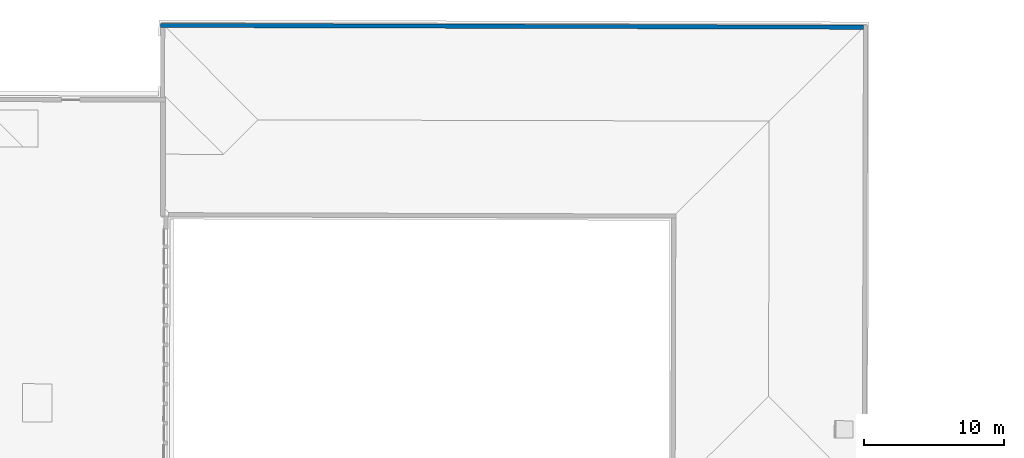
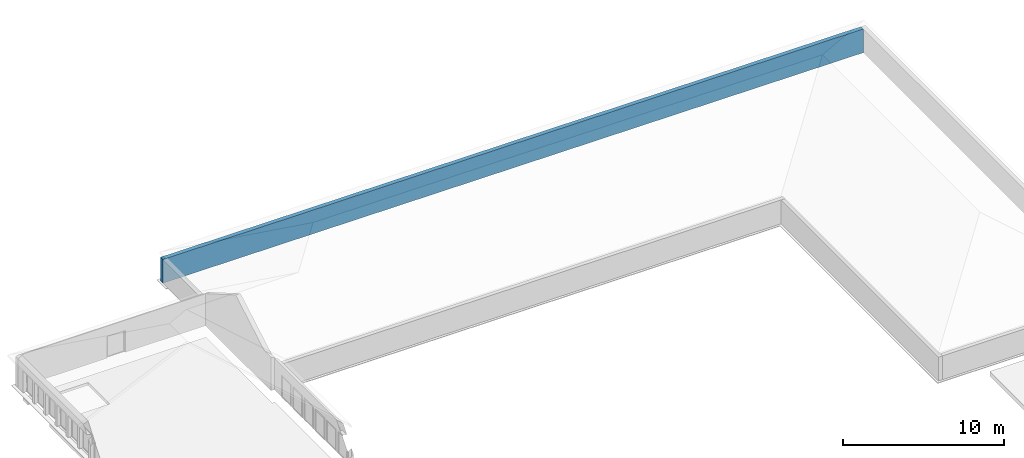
# One storey, part 24 of 26: 1 wall.
"""IFC2X3 building model written with IfcOpenShell, lengths in metres."""

from ifc_helpers import new_model, entity, si_unit, converted_unit, derived_unit, direction, frame, frame_2d, origin, place, context, subcontext, project, spatial, polyline, rectangle, extrude, clip, bounded_halfspace, material, layer, layer_set, layer_usage, type_object, element, save


model = new_model("IFC2X3")

# Units and contexts
model_context = context("Model", 3, precision=1e-05, world=origin(), true_north=direction((6.123233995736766e-17, 1.0)))
body_context = subcontext(model_context, "Body", "Model", "MODEL_VIEW")
ifc_project = project(units=[si_unit("LENGTHUNIT", "METRE"), si_unit("AREAUNIT", "SQUARE_METRE"), converted_unit("PLANEANGLEUNIT", "DEGREE", entity("IfcPlaneAngleMeasure", 0.017453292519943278), si_unit("PLANEANGLEUNIT", "RADIAN"), dimensions=[0, 0, 0, 0, 0, 0, 0]), derived_unit("THERMALTRANSMITTANCEUNIT", [(si_unit("MASSUNIT", "GRAM", prefix="KILO"), 1), (si_unit("THERMODYNAMICTEMPERATUREUNIT", "KELVIN"), -1), (si_unit("TIMEUNIT", "SECOND"), -3)])], contexts=[model_context])

# Site, building, storey
site_placement = place(None, frame((1253.6752467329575, 2072.143113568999, 91.49999999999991), z_axis=(0.0, 0.0, 1.0), x_axis=(0.7237211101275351, 0.6900925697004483, 0.0)))
site = spatial("IfcSite", under=ifc_project, at=site_placement, Name="Surface", CompositionType="ELEMENT")
building_placement = place(site_placement, origin())
building = spatial("IfcBuilding", under=site, at=building_placement, CompositionType="ELEMENT")
storey_placement = place(building_placement, frame((0.0, 0.0, 7.0)))
storey = spatial("IfcBuildingStorey", under=building, at=storey_placement, Name="2-R+2", CompositionType="ELEMENT", Elevation=6.999999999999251)

# Wall
ifc_material = material(Name="OMD_Béton blanc")
ifc_layer = layer(ifc_material, 0.29999999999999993)
ifc_layer_set = layer_set([ifc_layer], Name="Mur de base:MUR 30")
ifc_layer_usage = layer_usage(ifc_layer_set, "AXIS2", "POSITIVE", -0.14999999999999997)
wall_type = type_object("IfcWallType", Name="Mur de base:MUR 30", PredefinedType="STANDARD", material=ifc_layer_set)
wall_placement = place(storey_placement, frame((241.08174107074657, -36.77472551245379, 0.899999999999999), z_axis=(0.0, 0.0, 1.0), x_axis=(-0.721921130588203, 0.6919753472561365, 0.0)))
element("IfcWallStandardCase", 1, at=wall_placement, inside=storey, type_object=wall_type, material=ifc_layer_usage, Name="Mur de base:MUR 30", ObjectType="Mur de base:MUR 30", context=body_context, shape_type="Clipping", body=[
    clip(extrude(rectangle(XDim=50.11999999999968, YDim=0.2999999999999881, at=frame_2d((25.05999999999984, -5.190292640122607e-15), x_axis=(-1.0, 0.0))), origin(), (0.0, 0.0, 1.0), 1.8000000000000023), bounded_halfspace(frame((0.0, -0.15000000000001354, 1.8000000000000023), z_axis=(0.0, 0.0, -1.0), x_axis=(-0.0011364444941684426, 0.9999993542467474, 0.0)), True, frame((0.0, -0.15000000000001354, 1.8000000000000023)), polyline([(0.0, 0.0), (50.11999999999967, 0.0), (50.11999999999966, 0.3000000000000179), (49.81999999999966, 0.3000000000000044), (0.0, 0.3000000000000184), (0.0, 0.0)]))),
])

save(model, "model.ifc")
